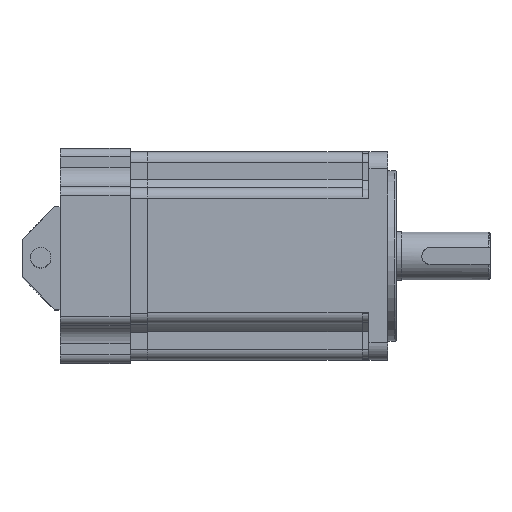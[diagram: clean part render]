
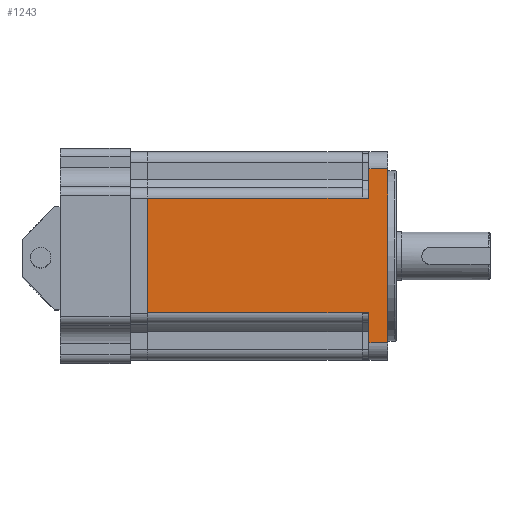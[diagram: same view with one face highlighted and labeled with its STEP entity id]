
A CAD part, top view. The second image highlights one B-rep face of the part: STEP entity #1243.
In plain terms, the highlighted planar face has unit normal (0, 0, 1).
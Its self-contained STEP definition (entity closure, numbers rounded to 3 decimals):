
#387=PLANE('',#9094);
#1243=ADVANCED_FACE('',(#1780),#387,.T.);
#1780=FACE_OUTER_BOUND('',#2469,.T.);
#2469=EDGE_LOOP('',(#5528,#5529,#5530,#5531,#5532,#5533,#5534,#5535,#5536,
#5537));
#3120=LINE('',#68924,#3658);
#3131=LINE('',#68965,#3669);
#3181=LINE('',#69148,#3719);
#3192=LINE('',#69182,#3730);
#3206=LINE('',#69277,#3744);
#3222=LINE('',#69340,#3760);
#3224=LINE('',#69343,#3762);
#3225=LINE('',#69344,#3763);
#3226=LINE('',#69345,#3764);
#3227=LINE('',#69346,#3765);
#3658=VECTOR('',#10712,1.);
#3669=VECTOR('',#10753,1.);
#3719=VECTOR('',#10913,1.);
#3730=VECTOR('',#10932,1.);
#3744=VECTOR('',#10996,1.);
#3760=VECTOR('',#11040,1.);
#3762=VECTOR('',#11044,1.);
#3763=VECTOR('',#11045,1.);
#3764=VECTOR('',#11046,1.);
#3765=VECTOR('',#11047,1.);
#5528=ORIENTED_EDGE('',*,*,#7812,.T.);
#5529=ORIENTED_EDGE('',*,*,#7783,.F.);
#5530=ORIENTED_EDGE('',*,*,#7814,.F.);
#5531=ORIENTED_EDGE('',*,*,#7749,.T.);
#5532=ORIENTED_EDGE('',*,*,#7815,.T.);
#5533=ORIENTED_EDGE('',*,*,#7628,.T.);
#5534=ORIENTED_EDGE('',*,*,#7816,.F.);
#5535=ORIENTED_EDGE('',*,*,#7648,.T.);
#5536=ORIENTED_EDGE('',*,*,#7817,.T.);
#5537=ORIENTED_EDGE('',*,*,#7734,.T.);
#6639=VERTEX_POINT('',#68925);
#6640=VERTEX_POINT('',#68926);
#6653=VERTEX_POINT('',#68964);
#6654=VERTEX_POINT('',#68966);
#6727=VERTEX_POINT('',#69147);
#6728=VERTEX_POINT('',#69149);
#6742=VERTEX_POINT('',#69181);
#6743=VERTEX_POINT('',#69183);
#6776=VERTEX_POINT('',#69278);
#6777=VERTEX_POINT('',#69279);
#7628=EDGE_CURVE('',#6639,#6640,#3120,.T.);
#7648=EDGE_CURVE('',#6654,#6653,#3131,.T.);
#7734=EDGE_CURVE('',#6728,#6727,#3181,.T.);
#7749=EDGE_CURVE('',#6743,#6742,#3192,.T.);
#7783=EDGE_CURVE('',#6776,#6777,#3206,.T.);
#7812=EDGE_CURVE('',#6727,#6777,#3222,.T.);
#7814=EDGE_CURVE('',#6743,#6776,#3224,.T.);
#7815=EDGE_CURVE('',#6742,#6639,#3225,.T.);
#7816=EDGE_CURVE('',#6654,#6640,#3226,.T.);
#7817=EDGE_CURVE('',#6653,#6728,#3227,.T.);
#9094=AXIS2_PLACEMENT_3D('',#69347,#11048,#11049);
#10712=DIRECTION('',(-1.,0.,0.));
#10753=DIRECTION('',(1.,0.,0.));
#10913=DIRECTION('',(0.,-1.,0.));
#10932=DIRECTION('',(0.,-1.,0.));
#10996=DIRECTION('',(0.,-1.,0.));
#11040=DIRECTION('',(1.,0.,0.));
#11044=DIRECTION('',(1.,0.,0.));
#11045=DIRECTION('',(-1.,0.,0.));
#11046=DIRECTION('',(0.,1.,0.));
#11047=DIRECTION('',(1.,0.,0.));
#11048=DIRECTION('',(0.,0.,1.));
#11049=DIRECTION('',(0.,-1.,0.));
#68924=CARTESIAN_POINT('',(-41.531,45.899,30.5));
#68925=CARTESIAN_POINT('',(21.469,45.899,30.5));
#68926=CARTESIAN_POINT('',(-41.531,45.899,30.5));
#68964=CARTESIAN_POINT('',(21.469,12.239,30.5));
#68965=CARTESIAN_POINT('',(23.469,12.239,30.5));
#68966=CARTESIAN_POINT('',(-41.531,12.239,30.5));
#69147=CARTESIAN_POINT('',(23.469,3.505,30.5));
#69148=CARTESIAN_POINT('',(23.469,54.505,30.5));
#69149=CARTESIAN_POINT('',(23.469,12.239,30.5));
#69181=CARTESIAN_POINT('',(23.469,45.899,30.5));
#69182=CARTESIAN_POINT('',(23.469,54.505,30.5));
#69183=CARTESIAN_POINT('',(23.469,54.505,30.5));
#69277=CARTESIAN_POINT('',(28.969,54.505,30.5));
#69278=CARTESIAN_POINT('',(28.969,54.505,30.5));
#69279=CARTESIAN_POINT('',(28.969,3.505,30.5));
#69340=CARTESIAN_POINT('',(23.469,3.505,30.5));
#69343=CARTESIAN_POINT('',(23.469,54.505,30.5));
#69344=CARTESIAN_POINT('',(-41.531,45.899,30.5));
#69345=CARTESIAN_POINT('',(-41.531,9.069,30.5));
#69346=CARTESIAN_POINT('',(23.469,12.239,30.5));
#69347=CARTESIAN_POINT('',(23.469,54.505,30.5));
